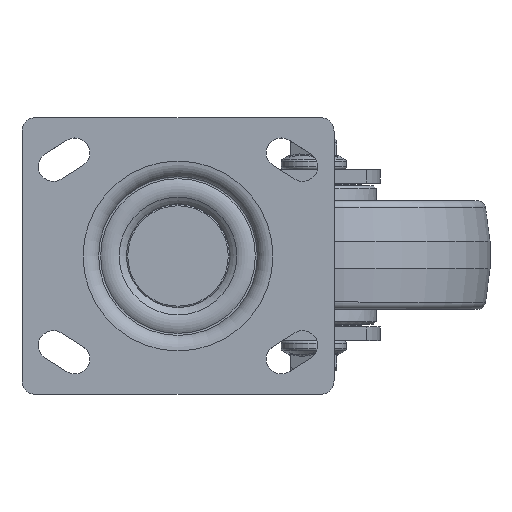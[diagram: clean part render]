
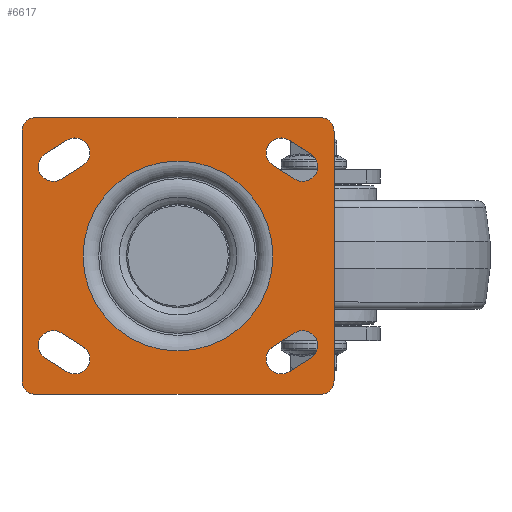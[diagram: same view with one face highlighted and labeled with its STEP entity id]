
A CAD part, top view. The second image highlights one B-rep face of the part: STEP entity #6617.
In plain terms, the highlighted planar face has unit normal (0, 0, 1).
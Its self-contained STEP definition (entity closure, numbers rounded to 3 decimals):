
#5361=CARTESIAN_POINT('',(-96.085,542.205,6.396));
#5362=VERTEX_POINT('',#5361);
#5363=CARTESIAN_POINT('',(-131.085,542.205,6.396));
#5364=DIRECTION('',(0.0,0.0,-1.0));
#5365=DIRECTION('',(1.0,0.0,0.0));
#5366=AXIS2_PLACEMENT_3D('',#5363,#5364,#5365);
#5367=CIRCLE('',#5366,35.);
#5368=EDGE_CURVE('',#5362,#5362,#5367,.T.);
#5740=CARTESIAN_POINT('',(-96.,575.541,6.396));
#5741=VERTEX_POINT('',#5740);
#5748=CARTESIAN_POINT('',(-88.,570.541,6.396));
#5749=VERTEX_POINT('',#5748);
#5750=CARTESIAN_POINT('',(-88.,570.541,6.396));
#5751=DIRECTION('',(-0.848,0.53,0.0));
#5752=VECTOR('',#5751,9.434);
#5753=LINE('',#5750,#5752);
#5754=EDGE_CURVE('',#5749,#5741,#5753,.T.);
#5780=CARTESIAN_POINT('',(-82.17,579.869,6.396));
#5781=VERTEX_POINT('',#5780);
#5782=CARTESIAN_POINT('',(-85.085,575.205,6.396));
#5783=DIRECTION('',(0.0,0.0,-1.0));
#5784=DIRECTION('',(1.0,0.0,0.0));
#5785=AXIS2_PLACEMENT_3D('',#5782,#5783,#5784);
#5786=CIRCLE('',#5785,5.5);
#5787=EDGE_CURVE('',#5781,#5749,#5786,.T.);
#5812=CARTESIAN_POINT('',(-90.17,584.869,6.396));
#5813=VERTEX_POINT('',#5812);
#5814=CARTESIAN_POINT('',(-90.17,584.869,6.396));
#5815=DIRECTION('',(0.848,-0.53,0.0));
#5816=VECTOR('',#5815,9.434);
#5817=LINE('',#5814,#5816);
#5818=EDGE_CURVE('',#5813,#5781,#5817,.T.);
#5842=CARTESIAN_POINT('',(-93.085,580.205,6.396));
#5843=DIRECTION('',(0.0,0.0,-1.0));
#5844=DIRECTION('',(1.0,0.0,0.0));
#5845=AXIS2_PLACEMENT_3D('',#5842,#5843,#5844);
#5846=CIRCLE('',#5845,5.5);
#5847=EDGE_CURVE('',#5741,#5813,#5846,.T.);
#5869=CARTESIAN_POINT('',(-73.585,496.205,6.396));
#5870=VERTEX_POINT('',#5869);
#5877=CARTESIAN_POINT('',(-78.585,491.205,6.396));
#5878=VERTEX_POINT('',#5877);
#5879=CARTESIAN_POINT('',(-78.585,496.205,6.396));
#5880=DIRECTION('',(0.0,0.0,1.0));
#5881=DIRECTION('',(1.0,0.0,0.0));
#5882=AXIS2_PLACEMENT_3D('',#5879,#5880,#5881);
#5883=CIRCLE('',#5882,5.0);
#5884=EDGE_CURVE('',#5878,#5870,#5883,.T.);
#5909=CARTESIAN_POINT('',(-183.585,491.205,6.396));
#5910=VERTEX_POINT('',#5909);
#5911=CARTESIAN_POINT('',(-183.585,491.205,6.396));
#5912=DIRECTION('',(1.0,0.0,0.0));
#5913=VECTOR('',#5912,105.0);
#5914=LINE('',#5911,#5913);
#5915=EDGE_CURVE('',#5910,#5878,#5914,.T.);
#5941=CARTESIAN_POINT('',(-188.585,496.205,6.396));
#5942=VERTEX_POINT('',#5941);
#5943=CARTESIAN_POINT('',(-183.585,496.205,6.396));
#5944=DIRECTION('',(0.0,0.0,1.0));
#5945=DIRECTION('',(1.0,0.0,0.0));
#5946=AXIS2_PLACEMENT_3D('',#5943,#5944,#5945);
#5947=CIRCLE('',#5946,5.0);
#5948=EDGE_CURVE('',#5942,#5910,#5947,.T.);
#5973=CARTESIAN_POINT('',(-188.585,588.205,6.396));
#5974=VERTEX_POINT('',#5973);
#5975=CARTESIAN_POINT('',(-188.585,588.205,6.396));
#5976=DIRECTION('',(0.0,-1.0,0.0));
#5977=VECTOR('',#5976,92.);
#5978=LINE('',#5975,#5977);
#5979=EDGE_CURVE('',#5974,#5942,#5978,.T.);
#6005=CARTESIAN_POINT('',(-183.585,593.205,6.396));
#6006=VERTEX_POINT('',#6005);
#6007=CARTESIAN_POINT('',(-183.585,588.205,6.396));
#6008=DIRECTION('',(0.0,0.0,1.0));
#6009=DIRECTION('',(1.0,0.0,0.0));
#6010=AXIS2_PLACEMENT_3D('',#6007,#6008,#6009);
#6011=CIRCLE('',#6010,5.0);
#6012=EDGE_CURVE('',#6006,#5974,#6011,.T.);
#6037=CARTESIAN_POINT('',(-78.585,593.205,6.396));
#6038=VERTEX_POINT('',#6037);
#6039=CARTESIAN_POINT('',(-78.585,593.205,6.396));
#6040=DIRECTION('',(-1.0,0.0,0.0));
#6041=VECTOR('',#6040,105.);
#6042=LINE('',#6039,#6041);
#6043=EDGE_CURVE('',#6038,#6006,#6042,.T.);
#6069=CARTESIAN_POINT('',(-73.585,588.205,6.396));
#6070=VERTEX_POINT('',#6069);
#6071=CARTESIAN_POINT('',(-78.585,588.205,6.396));
#6072=DIRECTION('',(0.0,0.0,1.0));
#6073=DIRECTION('',(1.0,0.0,0.0));
#6074=AXIS2_PLACEMENT_3D('',#6071,#6072,#6073);
#6075=CIRCLE('',#6074,5.0);
#6076=EDGE_CURVE('',#6070,#6038,#6075,.T.);
#6099=CARTESIAN_POINT('',(-73.585,496.205,6.396));
#6100=DIRECTION('',(0.0,1.0,0.0));
#6101=VECTOR('',#6100,92.);
#6102=LINE('',#6099,#6101);
#6103=EDGE_CURVE('',#5870,#6070,#6102,.T.);
#6124=CARTESIAN_POINT('',(-166.17,508.869,6.396));
#6125=VERTEX_POINT('',#6124);
#6132=CARTESIAN_POINT('',(-174.17,513.869,6.396));
#6133=VERTEX_POINT('',#6132);
#6134=CARTESIAN_POINT('',(-174.17,513.869,6.396));
#6135=DIRECTION('',(0.848,-0.53,0.0));
#6136=VECTOR('',#6135,9.434);
#6137=LINE('',#6134,#6136);
#6138=EDGE_CURVE('',#6133,#6125,#6137,.T.);
#6164=CARTESIAN_POINT('',(-180.,504.541,6.396));
#6165=VERTEX_POINT('',#6164);
#6166=CARTESIAN_POINT('',(-177.085,509.205,6.396));
#6167=DIRECTION('',(0.0,0.0,-1.0));
#6168=DIRECTION('',(1.0,0.0,0.0));
#6169=AXIS2_PLACEMENT_3D('',#6166,#6167,#6168);
#6170=CIRCLE('',#6169,5.5);
#6171=EDGE_CURVE('',#6165,#6133,#6170,.T.);
#6196=CARTESIAN_POINT('',(-172.,499.541,6.396));
#6197=VERTEX_POINT('',#6196);
#6198=CARTESIAN_POINT('',(-172.,499.541,6.396));
#6199=DIRECTION('',(-0.848,0.53,0.0));
#6200=VECTOR('',#6199,9.434);
#6201=LINE('',#6198,#6200);
#6202=EDGE_CURVE('',#6197,#6165,#6201,.T.);
#6226=CARTESIAN_POINT('',(-169.085,504.205,6.396));
#6227=DIRECTION('',(0.0,0.0,-1.0));
#6228=DIRECTION('',(1.0,0.0,0.0));
#6229=AXIS2_PLACEMENT_3D('',#6226,#6227,#6228);
#6230=CIRCLE('',#6229,5.5);
#6231=EDGE_CURVE('',#6125,#6197,#6230,.T.);
#6252=CARTESIAN_POINT('',(-172.,584.869,6.396));
#6253=VERTEX_POINT('',#6252);
#6260=CARTESIAN_POINT('',(-180.,579.869,6.396));
#6261=VERTEX_POINT('',#6260);
#6262=CARTESIAN_POINT('',(-180.,579.869,6.396));
#6263=DIRECTION('',(0.848,0.53,0.0));
#6264=VECTOR('',#6263,9.434);
#6265=LINE('',#6262,#6264);
#6266=EDGE_CURVE('',#6261,#6253,#6265,.T.);
#6292=CARTESIAN_POINT('',(-174.17,570.541,6.396));
#6293=VERTEX_POINT('',#6292);
#6294=CARTESIAN_POINT('',(-177.085,575.205,6.396));
#6295=DIRECTION('',(0.0,0.0,-1.0));
#6296=DIRECTION('',(1.0,0.0,0.0));
#6297=AXIS2_PLACEMENT_3D('',#6294,#6295,#6296);
#6298=CIRCLE('',#6297,5.5);
#6299=EDGE_CURVE('',#6293,#6261,#6298,.T.);
#6324=CARTESIAN_POINT('',(-166.17,575.541,6.396));
#6325=VERTEX_POINT('',#6324);
#6326=CARTESIAN_POINT('',(-166.17,575.541,6.396));
#6327=DIRECTION('',(-0.848,-0.53,0.0));
#6328=VECTOR('',#6327,9.434);
#6329=LINE('',#6326,#6328);
#6330=EDGE_CURVE('',#6325,#6293,#6329,.T.);
#6354=CARTESIAN_POINT('',(-169.085,580.205,6.396));
#6355=DIRECTION('',(0.0,0.0,-1.0));
#6356=DIRECTION('',(1.0,0.0,0.0));
#6357=AXIS2_PLACEMENT_3D('',#6354,#6355,#6356);
#6358=CIRCLE('',#6357,5.5);
#6359=EDGE_CURVE('',#6253,#6325,#6358,.T.);
#6445=CARTESIAN_POINT('',(-90.17,499.541,6.396));
#6446=VERTEX_POINT('',#6445);
#6453=CARTESIAN_POINT('',(-82.17,504.541,6.396));
#6454=VERTEX_POINT('',#6453);
#6455=CARTESIAN_POINT('',(-82.17,504.541,6.396));
#6456=DIRECTION('',(-0.848,-0.53,0.0));
#6457=VECTOR('',#6456,9.434);
#6458=LINE('',#6455,#6457);
#6459=EDGE_CURVE('',#6454,#6446,#6458,.T.);
#6485=CARTESIAN_POINT('',(-88.,513.869,6.396));
#6486=VERTEX_POINT('',#6485);
#6487=CARTESIAN_POINT('',(-85.085,509.205,6.396));
#6488=DIRECTION('',(0.0,0.0,-1.0));
#6489=DIRECTION('',(1.0,0.0,0.0));
#6490=AXIS2_PLACEMENT_3D('',#6487,#6488,#6489);
#6491=CIRCLE('',#6490,5.5);
#6492=EDGE_CURVE('',#6486,#6454,#6491,.T.);
#6517=CARTESIAN_POINT('',(-96.,508.869,6.396));
#6518=VERTEX_POINT('',#6517);
#6519=CARTESIAN_POINT('',(-96.,508.869,6.396));
#6520=DIRECTION('',(0.848,0.53,0.0));
#6521=VECTOR('',#6520,9.434);
#6522=LINE('',#6519,#6521);
#6523=EDGE_CURVE('',#6518,#6486,#6522,.T.);
#6547=CARTESIAN_POINT('',(-93.085,504.205,6.396));
#6548=DIRECTION('',(0.0,0.0,-1.0));
#6549=DIRECTION('',(1.0,0.0,0.0));
#6550=AXIS2_PLACEMENT_3D('',#6547,#6548,#6549);
#6551=CIRCLE('',#6550,5.5);
#6552=EDGE_CURVE('',#6446,#6518,#6551,.T.);
#6575=CARTESIAN_POINT('',(-63.585,542.205,6.396));
#6576=DIRECTION('',(0.0,0.0,1.0));
#6577=DIRECTION('',(1.0,0.0,0.0));
#6578=AXIS2_PLACEMENT_3D('',#6575,#6576,#6577);
#6579=PLANE('',#6578);
#6580=ORIENTED_EDGE('',*,*,#6012,.T.);
#6581=ORIENTED_EDGE('',*,*,#5979,.T.);
#6582=ORIENTED_EDGE('',*,*,#5948,.T.);
#6583=ORIENTED_EDGE('',*,*,#5915,.T.);
#6584=ORIENTED_EDGE('',*,*,#5884,.T.);
#6585=ORIENTED_EDGE('',*,*,#6103,.T.);
#6586=ORIENTED_EDGE('',*,*,#6076,.T.);
#6587=ORIENTED_EDGE('',*,*,#6043,.T.);
#6588=EDGE_LOOP('',(#6580,#6581,#6582,#6583,#6584,#6585,#6586,#6587));
#6589=FACE_OUTER_BOUND('',#6588,.T.);
#6590=ORIENTED_EDGE('',*,*,#5818,.T.);
#6591=ORIENTED_EDGE('',*,*,#5787,.T.);
#6592=ORIENTED_EDGE('',*,*,#5754,.T.);
#6593=ORIENTED_EDGE('',*,*,#5847,.T.);
#6594=EDGE_LOOP('',(#6590,#6591,#6592,#6593));
#6595=FACE_BOUND('',#6594,.T.);
#6596=ORIENTED_EDGE('',*,*,#6202,.T.);
#6597=ORIENTED_EDGE('',*,*,#6171,.T.);
#6598=ORIENTED_EDGE('',*,*,#6138,.T.);
#6599=ORIENTED_EDGE('',*,*,#6231,.T.);
#6600=EDGE_LOOP('',(#6596,#6597,#6598,#6599));
#6601=FACE_BOUND('',#6600,.T.);
#6602=ORIENTED_EDGE('',*,*,#6330,.T.);
#6603=ORIENTED_EDGE('',*,*,#6299,.T.);
#6604=ORIENTED_EDGE('',*,*,#6266,.T.);
#6605=ORIENTED_EDGE('',*,*,#6359,.T.);
#6606=EDGE_LOOP('',(#6602,#6603,#6604,#6605));
#6607=FACE_BOUND('',#6606,.T.);
#6608=ORIENTED_EDGE('',*,*,#6523,.T.);
#6609=ORIENTED_EDGE('',*,*,#6492,.T.);
#6610=ORIENTED_EDGE('',*,*,#6459,.T.);
#6611=ORIENTED_EDGE('',*,*,#6552,.T.);
#6612=EDGE_LOOP('',(#6608,#6609,#6610,#6611));
#6613=FACE_BOUND('',#6612,.T.);
#6614=ORIENTED_EDGE('',*,*,#5368,.T.);
#6615=EDGE_LOOP('',(#6614));
#6616=FACE_BOUND('',#6615,.T.);
#6617=ADVANCED_FACE('',(#6589,#6595,#6601,#6607,#6613,#6616),#6579,.T.);
